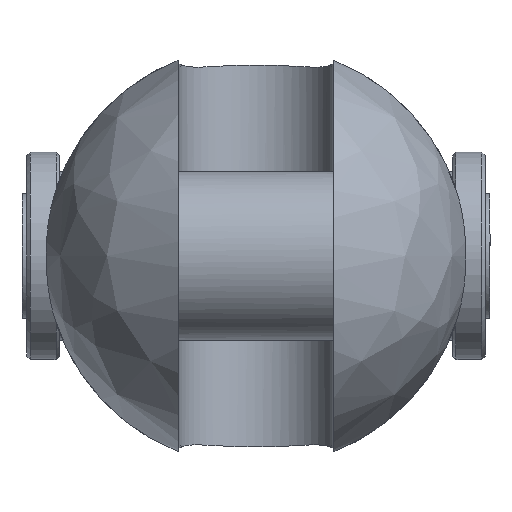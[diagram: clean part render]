
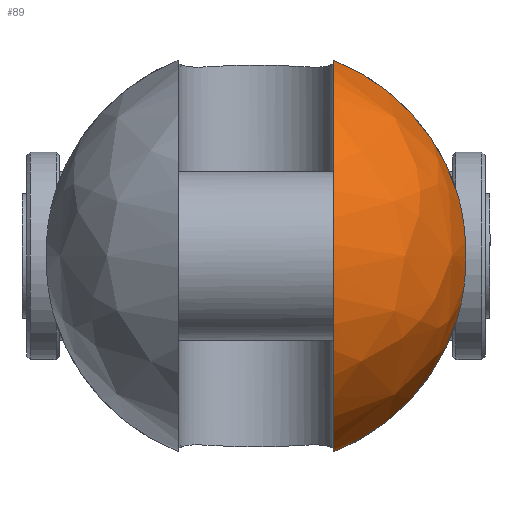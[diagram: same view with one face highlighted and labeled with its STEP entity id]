
A CAD part, left-side view. The second image highlights one B-rep face of the part: STEP entity #89.
In plain terms, the highlighted free-form (B-spline) face has degree [2, 2] with [9, 5] control points.
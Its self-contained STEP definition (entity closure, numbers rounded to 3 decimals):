
#89=ADVANCED_FACE('',(#164),#1306,.T.);
#164=FACE_OUTER_BOUND('',#249,.T.);
#249=EDGE_LOOP('',(#583,#584,#585,#586));
#583=ORIENTED_EDGE('',*,*,#809,.T.);
#584=ORIENTED_EDGE('',*,*,#834,.F.);
#585=ORIENTED_EDGE('',*,*,#851,.T.);
#586=ORIENTED_EDGE('',*,*,#827,.F.);
#809=EDGE_CURVE('',#1192,#1191,#1045,.T.);
#827=EDGE_CURVE('',#1192,#1204,#1055,.T.);
#834=EDGE_CURVE('',#1211,#1191,#1056,.T.);
#851=EDGE_CURVE('',#1211,#1204,#962,.T.);
#962=B_SPLINE_CURVE_WITH_KNOTS('',3,(#3079,#3080,#3081,#3082,#3083,#3084,
#3085,#3086,#3087,#3088,#3089,#3090,#3091,#3092),.UNSPECIFIED.,.F.,.F.,
(4,2,2,2,2,2,4),(-20.789,-19.15,-14.772,
-10.395,-6.017,-1.64,0.),.UNSPECIFIED.);
#1045=(
BOUNDED_CURVE()
B_SPLINE_CURVE(2,(#2904,#2905,#2906,#2907,#2908),.UNSPECIFIED.,.F.,.F.)
B_SPLINE_CURVE_WITH_KNOTS((3,2,3),(-94.887,-47.444,
0.),.UNSPECIFIED.)
CURVE()
GEOMETRIC_REPRESENTATION_ITEM()
RATIONAL_B_SPLINE_CURVE((1.,0.707,1.,0.707,1.))
REPRESENTATION_ITEM('')
);
#1055=(
BOUNDED_CURVE()
B_SPLINE_CURVE(2,(#2990,#2991,#2992),.UNSPECIFIED.,.F.,.F.)
B_SPLINE_CURVE_WITH_KNOTS((3,3),(0.,28.969),.UNSPECIFIED.)
CURVE()
GEOMETRIC_REPRESENTATION_ITEM()
RATIONAL_B_SPLINE_CURVE((1.,0.902,1.))
REPRESENTATION_ITEM('')
);
#1056=(
BOUNDED_CURVE()
B_SPLINE_CURVE(2,(#3013,#3014,#3015),.UNSPECIFIED.,.F.,.F.)
B_SPLINE_CURVE_WITH_KNOTS((3,3),(0.,28.969),.UNSPECIFIED.)
CURVE()
GEOMETRIC_REPRESENTATION_ITEM()
RATIONAL_B_SPLINE_CURVE((1.,0.902,1.))
REPRESENTATION_ITEM('')
);
#1191=VERTEX_POINT('',#2837);
#1192=VERTEX_POINT('',#2838);
#1204=VERTEX_POINT('',#2850);
#1211=VERTEX_POINT('',#2857);
#1306=(
BOUNDED_SURFACE()
B_SPLINE_SURFACE(2,2,((#2445,#2446,#2447,#2448,#2449),(#2450,#2451,#2452,
#2453,#2454),(#2455,#2456,#2457,#2458,#2459),(#2460,#2461,#2462,#2463,#2464),
(#2465,#2466,#2467,#2468,#2469),(#2470,#2471,#2472,#2473,#2474),(#2475,
#2476,#2477,#2478,#2479),(#2480,#2481,#2482,#2483,#2484),(#2485,#2486,#2487,
#2488,#2489)),.UNSPECIFIED.,.T.,.F.,.F.)
B_SPLINE_SURFACE_WITH_KNOTS((3,2,2,2,3),(3,2,3),(0.,51.051,102.102,
153.153,204.204),(0.,51.051,102.102),
 .UNSPECIFIED.)
GEOMETRIC_REPRESENTATION_ITEM()
RATIONAL_B_SPLINE_SURFACE(((1.,0.707,1.,0.707,1.),
(0.707,0.5,0.707,0.5,0.707),(1.,0.707,
1.,0.707,1.),(0.707,0.5,0.707,0.5,0.707),
(1.,0.707,1.,0.707,1.),(0.707,0.5,0.707,
0.5,0.707),(1.,0.707,1.,0.707,1.),(0.707,
0.5,0.707,0.5,0.707),(1.,0.707,1.,0.707,
1.)))
REPRESENTATION_ITEM('')
SURFACE()
);
#2445=CARTESIAN_POINT('',(-46.5,0.,0.));
#2446=CARTESIAN_POINT('',(-46.5,32.5,0.));
#2447=CARTESIAN_POINT('',(-14.,32.5,0.));
#2448=CARTESIAN_POINT('',(18.5,32.5,0.));
#2449=CARTESIAN_POINT('',(18.5,0.,0.));
#2450=CARTESIAN_POINT('',(-46.5,0.,0.));
#2451=CARTESIAN_POINT('',(-46.5,32.5,32.5));
#2452=CARTESIAN_POINT('',(-14.,32.5,32.5));
#2453=CARTESIAN_POINT('',(18.5,32.5,32.5));
#2454=CARTESIAN_POINT('',(18.5,0.,0.));
#2455=CARTESIAN_POINT('',(-46.5,0.,0.));
#2456=CARTESIAN_POINT('',(-46.5,0.,32.5));
#2457=CARTESIAN_POINT('',(-14.,0.,32.5));
#2458=CARTESIAN_POINT('',(18.5,0.,32.5));
#2459=CARTESIAN_POINT('',(18.5,0.,0.));
#2460=CARTESIAN_POINT('',(-46.5,0.,0.));
#2461=CARTESIAN_POINT('',(-46.5,-32.5,32.5));
#2462=CARTESIAN_POINT('',(-14.,-32.5,32.5));
#2463=CARTESIAN_POINT('',(18.5,-32.5,32.5));
#2464=CARTESIAN_POINT('',(18.5,0.,0.));
#2465=CARTESIAN_POINT('',(-46.5,0.,0.));
#2466=CARTESIAN_POINT('',(-46.5,-32.5,0.));
#2467=CARTESIAN_POINT('',(-14.,-32.5,0.));
#2468=CARTESIAN_POINT('',(18.5,-32.5,0.));
#2469=CARTESIAN_POINT('',(18.5,0.,0.));
#2470=CARTESIAN_POINT('',(-46.5,0.,0.));
#2471=CARTESIAN_POINT('',(-46.5,-32.5,-32.5));
#2472=CARTESIAN_POINT('',(-14.,-32.5,-32.5));
#2473=CARTESIAN_POINT('',(18.5,-32.5,-32.5));
#2474=CARTESIAN_POINT('',(18.5,0.,0.));
#2475=CARTESIAN_POINT('',(-46.5,0.,0.));
#2476=CARTESIAN_POINT('',(-46.5,0.,-32.5));
#2477=CARTESIAN_POINT('',(-14.,0.,-32.5));
#2478=CARTESIAN_POINT('',(18.5,0.,-32.5));
#2479=CARTESIAN_POINT('',(18.5,0.,0.));
#2480=CARTESIAN_POINT('',(-46.5,0.,0.));
#2481=CARTESIAN_POINT('',(-46.5,32.5,-32.5));
#2482=CARTESIAN_POINT('',(-14.,32.5,-32.5));
#2483=CARTESIAN_POINT('',(18.5,32.5,-32.5));
#2484=CARTESIAN_POINT('',(18.5,0.,0.));
#2485=CARTESIAN_POINT('',(-46.5,0.,0.));
#2486=CARTESIAN_POINT('',(-46.5,32.5,0.));
#2487=CARTESIAN_POINT('',(-14.,32.5,0.));
#2488=CARTESIAN_POINT('',(18.5,32.5,0.));
#2489=CARTESIAN_POINT('',(18.5,0.,0.));
#2837=CARTESIAN_POINT('',(-14.,-12.,-30.203));
#2838=CARTESIAN_POINT('',(-14.,-12.,30.203));
#2850=CARTESIAN_POINT('',(-14.,-31.036,9.644));
#2857=CARTESIAN_POINT('',(-14.,-31.036,-9.644));
#2904=CARTESIAN_POINT('',(-14.,-12.,30.203));
#2905=CARTESIAN_POINT('',(-44.203,-12.,30.203));
#2906=CARTESIAN_POINT('',(-44.203,-12.,0.));
#2907=CARTESIAN_POINT('',(-44.203,-12.,-30.203));
#2908=CARTESIAN_POINT('',(-14.,-12.,-30.203));
#2990=CARTESIAN_POINT('',(-14.,-12.,30.203));
#2991=CARTESIAN_POINT('',(-14.,-26.429,24.471));
#2992=CARTESIAN_POINT('',(-14.,-31.036,9.644));
#3013=CARTESIAN_POINT('',(-14.,-31.036,-9.644));
#3014=CARTESIAN_POINT('',(-14.,-26.429,-24.471));
#3015=CARTESIAN_POINT('',(-14.,-12.,-30.203));
#3079=CARTESIAN_POINT('',(-14.,-31.036,-9.644));
#3080=CARTESIAN_POINT('',(-14.303,-31.173,-9.204));
#3081=CARTESIAN_POINT('',(-14.587,-31.3,-8.747));
#3082=CARTESIAN_POINT('',(-15.548,-31.728,-7.023));
#3083=CARTESIAN_POINT('',(-16.093,-31.967,-5.667));
#3084=CARTESIAN_POINT('',(-16.819,-32.283,-2.867));
#3085=CARTESIAN_POINT('',(-17.,-32.361,-1.423));
#3086=CARTESIAN_POINT('',(-17.,-32.361,1.423));
#3087=CARTESIAN_POINT('',(-16.819,-32.283,2.867));
#3088=CARTESIAN_POINT('',(-16.093,-31.967,5.667));
#3089=CARTESIAN_POINT('',(-15.548,-31.728,7.023));
#3090=CARTESIAN_POINT('',(-14.587,-31.3,8.747));
#3091=CARTESIAN_POINT('',(-14.303,-31.173,9.204));
#3092=CARTESIAN_POINT('',(-14.,-31.036,9.644));
